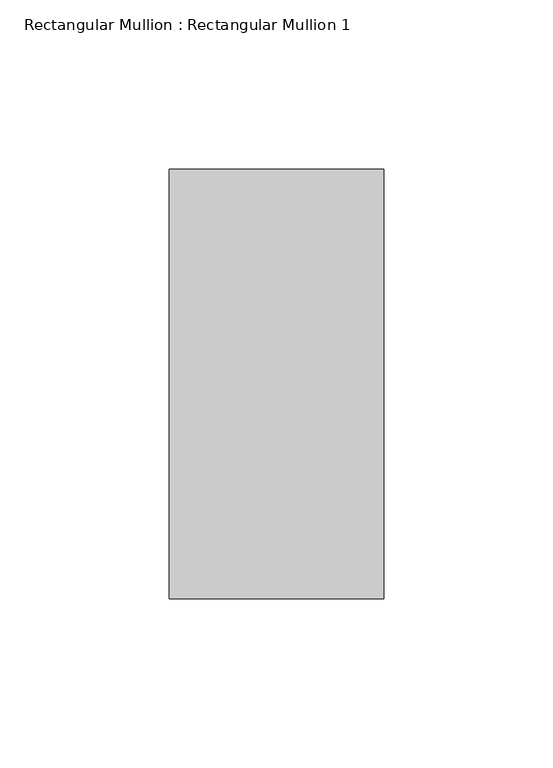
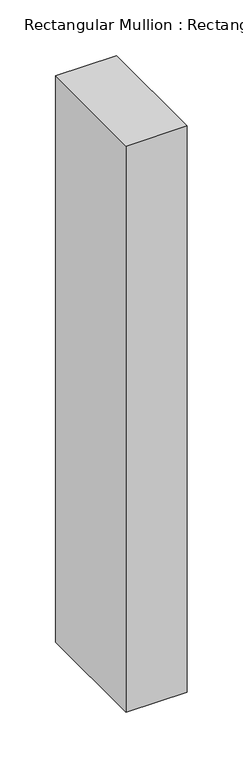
"""IFC4 building model written with IfcOpenShell, lengths in millimetres: member geometry, Rectangular Mullion : Rectangular Mullion 1."""

import ifcopenshell
import ifcopenshell.guid

model = None  # the IFC model being written
_history = None  # IfcOwnerHistory: only IFC2X3 demands one
_inside = {}  # id of a spatial element -> (the spatial element, [elements in it])
_under = {}  # id of a project, library or spatial element -> (it, [spatial elements below it])
_declared = {}  # id of a project -> (the project, [libraries it declares])
_typed = {}  # id of a type object -> (the type object, [elements of that type])
_made_of = {}  # id of a material, layer set ... -> (it, [elements and type objects made of it])


def new_model(schema):
    """Start an empty IFC model of exactly this schema.

    Asked for "IFC4X3", IfcOpenShell would pick the latest addendum, in which some entities
    have other attributes; the version numbers below select the first issue.
    IFC2X3 requires an IfcOwnerHistory on every rooted entity: one is made here for all.
    """
    global model, _history
    if schema == "IFC4X3":
        model = ifcopenshell.file(schema_version=(4, 3, 0, 0))
    else:
        model = ifcopenshell.file(schema=schema)
    _inside.clear()
    _under.clear()
    _declared.clear()
    _typed.clear()
    _made_of.clear()
    _history = None
    if model.schema == "IFC2X3":
        org = make("IfcOrganization", Name="unknown")
        user = make(
            "IfcPersonAndOrganization",
            ThePerson=make("IfcPerson", FamilyName="unknown"),
            TheOrganization=org,
        )
        app = make(
            "IfcApplication",
            ApplicationDeveloper=org,
            Version="unknown",
            ApplicationFullName="unknown",
            ApplicationIdentifier="unknown",
        )
        _history = make(
            "IfcOwnerHistory",
            OwningUser=user,
            OwningApplication=app,
            ChangeAction="ADDED",
            CreationDate=0,
        )
    return model


def make(cls, **values):
    """One entity of the class cls with the attributes given. An attribute that is None is left unset."""
    return model.create_entity(
        cls, **{name: value for name, value in values.items() if value is not None}
    )


def rooted(cls, **values):
    """An entity with a GlobalId (a new one), such as an element, a storey or a relation."""
    return make(cls, GlobalId=ifcopenshell.guid.new(), OwnerHistory=_history, **values)


def si_unit(unit_type, name, prefix=None):
    """IfcSIUnit, for example si_unit("LENGTHUNIT", "METRE", prefix="MILLI")."""
    return make("IfcSIUnit", UnitType=unit_type, Prefix=prefix, Name=name)


def assignment(units):
    """IfcUnitAssignment: the units of a project."""
    return None if units is None else make("IfcUnitAssignment", Units=units)


def point(xyz):
    """IfcCartesianPoint."""
    return None if xyz is None else make("IfcCartesianPoint", Coordinates=xyz)


def direction(xyz):
    """IfcDirection."""
    return None if xyz is None else make("IfcDirection", DirectionRatios=xyz)


def frame(location, z_axis=None, x_axis=None):
    """IfcAxis2Placement3D, a coordinate frame: its origin and axes. An axis left out is left unset."""
    return make(
        "IfcAxis2Placement3D",
        Location=point(location),
        Axis=direction(z_axis),
        RefDirection=direction(x_axis),
    )


def origin():
    """The frame at (0, 0, 0) with its axes left unset."""
    return frame((0.0, 0.0, 0.0))


def place(relative_to, where):
    """IfcLocalPlacement: puts the frame where relative to a parent placement (None: the world)."""
    return make(
        "IfcLocalPlacement", PlacementRelTo=relative_to, RelativePlacement=where
    )


def context(
    kind, dimensions, precision=None, world=None, true_north=None, identifier=None
):
    """IfcGeometricRepresentationContext, for example the 3D "Model" context."""
    return make(
        "IfcGeometricRepresentationContext",
        ContextIdentifier=identifier,
        ContextType=kind,
        CoordinateSpaceDimension=dimensions,
        Precision=precision,
        WorldCoordinateSystem=world,
        TrueNorth=true_north,
    )


def project(units=None, contexts=None):
    """IfcProject with its units and contexts."""
    return rooted(
        "IfcProject",
        Name="project",
        RepresentationContexts=contexts,
        UnitsInContext=assignment(units),
    )


def spatial(cls, under=None, at=None, **own):
    """A site, building, storey or space (cls), placed at a placement, below another one or the project."""
    s = rooted(cls, ObjectPlacement=at, **own)
    if under is not None:
        _under.setdefault(under.id(), (under, []))[1].append(s)
    return s


def polyline(points):
    """IfcPolyline through the points."""
    return make("IfcPolyline", Points=[point(p) for p in points])


def outline(outer, holes=None, kind="AREA"):
    """IfcArbitraryClosedProfileDef: a profile drawn as a closed curve; with holes, ...WithVoids."""
    if holes is None:
        return make("IfcArbitraryClosedProfileDef", ProfileType=kind, OuterCurve=outer)
    return make(
        "IfcArbitraryProfileDefWithVoids",
        ProfileType=kind,
        OuterCurve=outer,
        InnerCurves=holes,
    )


def extrude(swept, where, along, depth):
    """IfcExtrudedAreaSolid: the profile swept, set in the frame where, extruded along a direction by depth."""
    return make(
        "IfcExtrudedAreaSolid",
        SweptArea=swept,
        Position=where,
        ExtrudedDirection=direction(along),
        Depth=depth,
    )


def shape(context_of_items, identifier, shape_type, items):
    """IfcShapeRepresentation: the items that make up one representation, for example the "Body"."""
    return make(
        "IfcShapeRepresentation",
        ContextOfItems=context_of_items,
        RepresentationIdentifier=identifier,
        RepresentationType=shape_type,
        Items=items,
    )


def source(mapping_origin, context_of_items, identifier, shape_type, items):
    """IfcRepresentationMap: a shape defined once, which mapped items show again and again."""
    return make(
        "IfcRepresentationMap",
        MappingOrigin=mapping_origin,
        MappedRepresentation=shape(context_of_items, identifier, shape_type, items),
    )


def transform(
    local_origin,
    x_axis=None,
    y_axis=None,
    z_axis=None,
    scale=None,
    scale2=None,
    scale3=None,
    uniform=True,
):
    """IfcCartesianTransformationOperator3D, or its non-uniform kind. x_axis, y_axis, z_axis: its Axis1, 2, 3."""
    if uniform:
        return make(
            "IfcCartesianTransformationOperator3D",
            Axis1=direction(x_axis),
            Axis2=direction(y_axis),
            LocalOrigin=point(local_origin),
            Scale=scale,
            Axis3=direction(z_axis),
        )
    return make(
        "IfcCartesianTransformationOperator3DnonUniform",
        Axis1=direction(x_axis),
        Axis2=direction(y_axis),
        LocalOrigin=point(local_origin),
        Scale=scale,
        Axis3=direction(z_axis),
        Scale2=scale2,
        Scale3=scale3,
    )


def mapped(mapping_source, mapping_target):
    """IfcMappedItem: shows the shape of a source again, moved by a transform."""
    return make(
        "IfcMappedItem", MappingSource=mapping_source, MappingTarget=mapping_target
    )


def made_of(thing, what):
    """Note that an element or type object is made of a material, layer set ...; save() writes the relation."""
    if what is not None:
        _made_of.setdefault(what.id(), (what, []))[1].append(thing)
    return thing


def element(
    cls,
    number,
    at=None,
    inside=None,
    cuts=None,
    type_object=None,
    material=None,
    context=None,
    identifier="Body",
    shape_type=None,
    held_by="IfcProductDefinitionShape",
    body=None,
    shapes=None,
    **own,
):
    """One element of the class cls, such as IfcWall. Its Tag is "e" and its number.

    at: its placement. inside: the storey or other place that contains it. cuts: it is an
    opening in that element (IfcRelVoidsElement). A single representation is given by context,
    identifier, shape_type and body (its items); several are given by shapes. held_by: the class
    of the entity that holds the representations. save() writes the other relations.
    """
    e = rooted(cls, Tag="e%d" % number, ObjectPlacement=at, **own)
    if body is not None:
        shapes = [shape(context, identifier, shape_type, body)]
    if shapes is not None:
        e.Representation = make(held_by, Representations=shapes)
    if inside is not None:
        _inside.setdefault(inside.id(), (inside, []))[1].append(e)
    if cuts is not None:
        rooted(
            "IfcRelVoidsElement", RelatingBuildingElement=cuts, RelatedOpeningElement=e
        )
    if type_object is not None:
        _typed.setdefault(type_object.id(), (type_object, []))[1].append(e)
    return made_of(e, material)


def aggregate(whole, parts):
    """IfcRelAggregates: a whole, such as a stair, and the parts it consists of."""
    return rooted("IfcRelAggregates", RelatingObject=whole, RelatedObjects=parts)


def save(model, path):
    """Write the relations noted so far, then the file.

    IfcRelAggregates (storeys below a building ...), IfcRelContainedInSpatialStructure (elements
    in a storey), IfcRelDefinesByType, IfcRelAssociatesMaterial and IfcRelDeclares: one each for
    every whole, place, type object, material and project.
    """
    for whole, parts in _under.values():
        aggregate(whole, parts)
    for where, things in _inside.values():
        rooted(
            "IfcRelContainedInSpatialStructure",
            RelatedElements=things,
            RelatingStructure=where,
        )
    for kind, things in _typed.values():
        rooted("IfcRelDefinesByType", RelatedObjects=things, RelatingType=kind)
    for what, things in _made_of.values():
        rooted("IfcRelAssociatesMaterial", RelatedObjects=things, RelatingMaterial=what)
    for by, libraries in _declared.values():
        rooted("IfcRelDeclares", RelatingContext=by, RelatedDefinitions=libraries)
    model.write(path)


def rectangular_mullion_rectangular_mullion_1_acf73c46(model_context):
    return source(origin(), model_context, "Body", "SweptSolid", [
        extrude(outline(polyline([(0.0, 63.5), (0.0, -63.5), (-63.5, -63.5), (-63.5, 63.5), (0.0, 63.5)])), frame((0.0, 0.0, -621.4166668), z_axis=(0.0, 0.0, 1.0), x_axis=(1.0, 0.0, 0.0)), (0.0, 0.0, 1.0), 621.4166668),
    ])


if __name__ == "__main__":
    model = new_model("IFC4")
    model_context = context("Model", 3, world=origin())
    ifc_project = project(units=[si_unit("LENGTHUNIT", "METRE", prefix="MILLI")], contexts=[model_context])
    site = spatial("IfcSite", under=ifc_project)
    building = spatial("IfcBuilding", under=site)
    placement = place(None, origin())
    rectangular_mullion_rectangular_mullion_1_shape = rectangular_mullion_rectangular_mullion_1_acf73c46(model_context)
    element("IfcMember", 1, ObjectType="Rectangular Mullion : Rectangular Mullion 1", at=placement, inside=building, context=model_context, shape_type="MappedRepresentation", body=[
        mapped(rectangular_mullion_rectangular_mullion_1_shape, transform((0.0, 0.0, 0.0), x_axis=(1.0, 0.0, 0.0), y_axis=(0.0, 1.0, 0.0), z_axis=(0.0, 0.0, 1.0))),
    ])
    save(model, "model.ifc")
